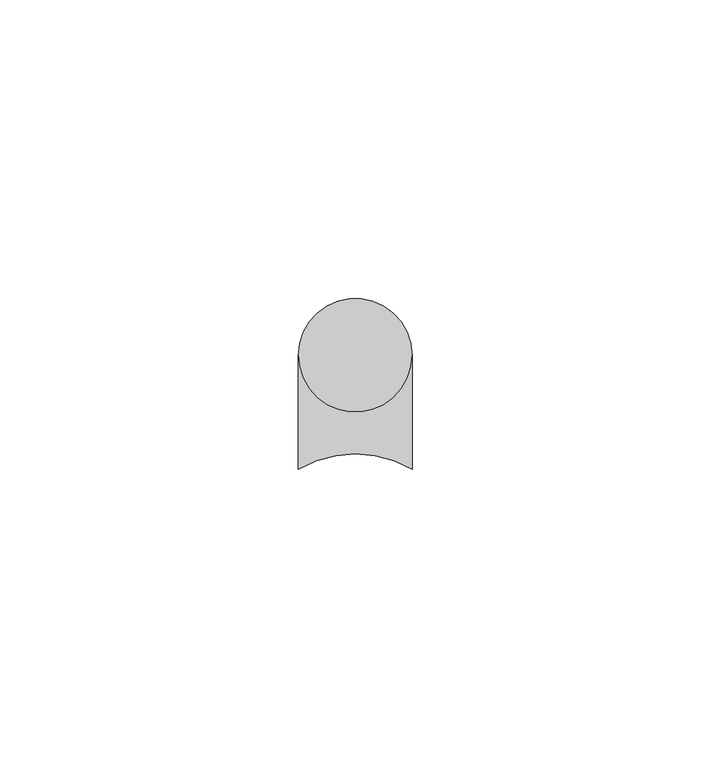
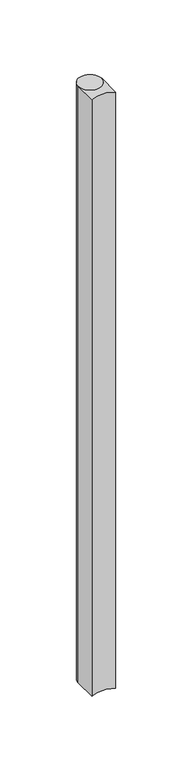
"""IFC4 building model written with IfcOpenShell, lengths in millimetres: proxy geometry, CRAi Generic Model Backer Rod and Sealant : CRAi Generic Model Backer Rod and Sealant."""

from ifc_helpers import new_model, si_unit, point, frame_2d, origin, origin_with_axes, origin_2d, place, context, project, spatial, polyline, circle_curve, trimmed, segment, composite_curve, outline, extrude, source, transform, mapped, element, save


def generic_models_38adcc71(model_context):
    return source(origin(), model_context, "Body", "SweptSolid", [
        extrude(outline(composite_curve([segment(polyline([(9.525, 0.0), (9.525, -19.05)]), True, "CONTINUOUS"), segment(trimmed(circle_curve(frame_2d((0.0, -35.5477839)), 19.05), [point((9.525, -19.05))], [point((-9.525, -19.05))], True, "CARTESIAN"), True, "CONTINUOUS"), segment(polyline([(-9.525, -19.05), (-9.525, 0.0)]), True, "CONTINUOUS"), segment(trimmed(circle_curve(origin_2d(), 9.525), [point((-9.525, 0.0))], [point((9.525, 0.0))], True, "CARTESIAN"), True, "CONTINUOUS")], self_intersect=False)), origin_with_axes(), (0.0, 0.0, 1.0), 508.0),
        extrude(outline(composite_curve([segment(trimmed(circle_curve(origin_2d(), 9.525), [point((-9.525, 0.0))], [point((9.525, 0.0))], False, "CARTESIAN"), True, "CONTINUOUS"), segment(trimmed(circle_curve(origin_2d(), 9.525), [point((9.525, 0.0))], [point((-9.525, 0.0))], False, "CARTESIAN"), True, "CONTINUOUS")], self_intersect=False)), origin_with_axes(), (0.0, 0.0, 1.0), 508.0),
    ])


if __name__ == "__main__":
    model = new_model("IFC4")
    model_context = context("Model", 3, world=origin())
    ifc_project = project(units=[si_unit("LENGTHUNIT", "METRE", prefix="MILLI")], contexts=[model_context])
    site = spatial("IfcSite", under=ifc_project)
    building = spatial("IfcBuilding", under=site)
    placement = place(None, origin())
    generic_models_shape = generic_models_38adcc71(model_context)
    element("IfcBuildingElementProxy", 1, Name="CRAi Generic Model Backer Rod and Sealant : CRAi Generic Model Backer Rod and Sealant", ObjectType="CRAi Generic Model Backer Rod and Sealant : CRAi Generic Model Backer Rod and Sealant", at=placement, inside=building, context=model_context, shape_type="MappedRepresentation", body=[
        mapped(generic_models_shape, transform((0.0, 0.0, 0.0), x_axis=(1.0, 0.0, 0.0), y_axis=(0.0, 1.0, 0.0), z_axis=(0.0, 0.0, 1.0))),
    ])
    save(model, "model.ifc")
